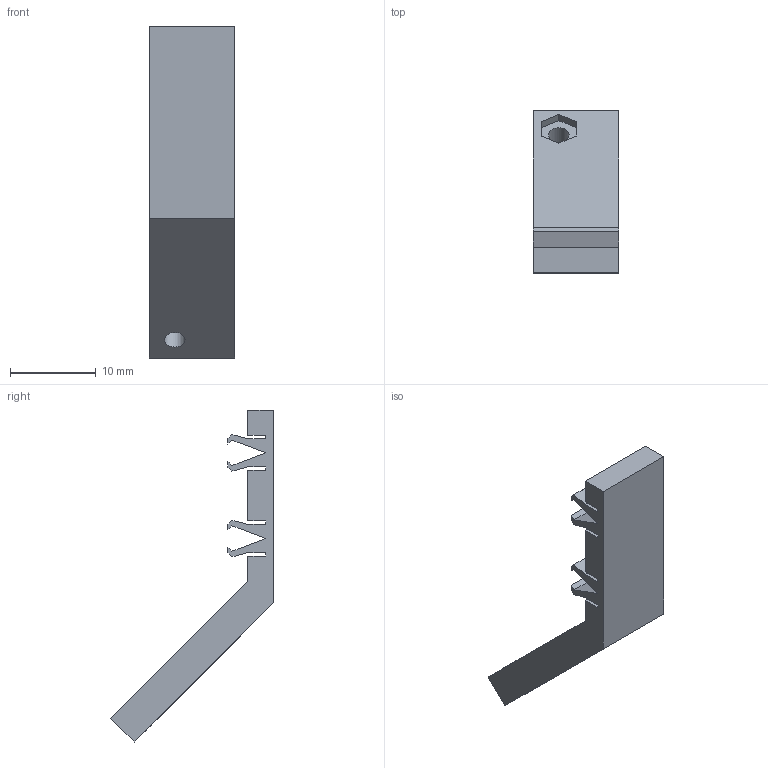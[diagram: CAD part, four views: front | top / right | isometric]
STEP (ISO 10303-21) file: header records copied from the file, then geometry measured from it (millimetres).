
FILE_DESCRIPTION(/* description */ (''),/* implementation_level */ '2;1');
FILE_NAME(/* name */ 'C:/Users/priba/Downloads/Brick1x1l3a45OppPar20.step',/* time_stamp */ '2020-10-04T19:50:38+02:00',/* author */ (''),/* organization */ (''),/* preprocessor_version */ 'ST-DEVELOPER v18.1',/* originating_system */ 'Autodesk Translation Framework v9.3.0.1241',/* authorisation */ '');
FILE_SCHEMA (('AUTOMOTIVE_DESIGN { 1 0 10303 214 3 1 1 }'));
Length unit declared in the file: millimetre
Products named in the file (1): Brick1x1l3a45OppPar20
Bounding box: 10 x 19 x 38.75 mm (x, y, z)
Volume: 1496.6 mm3; surface area: 1707.4 mm2
Topology: 1 solids, 1 shells, 52 faces, 147 edges, 98 vertices
Faces by surface type: plane 51, cylinder 1
Full cylindrical faces by diameter (mm): 2.4 x1
Entity records: 1679 total; most frequent: CARTESIAN_POINT 298, ORIENTED_EDGE 294, DIRECTION 255, EDGE_CURVE 147, LINE 145, VECTOR 145, VERTEX_POINT 98, EDGE_LOOP 55
